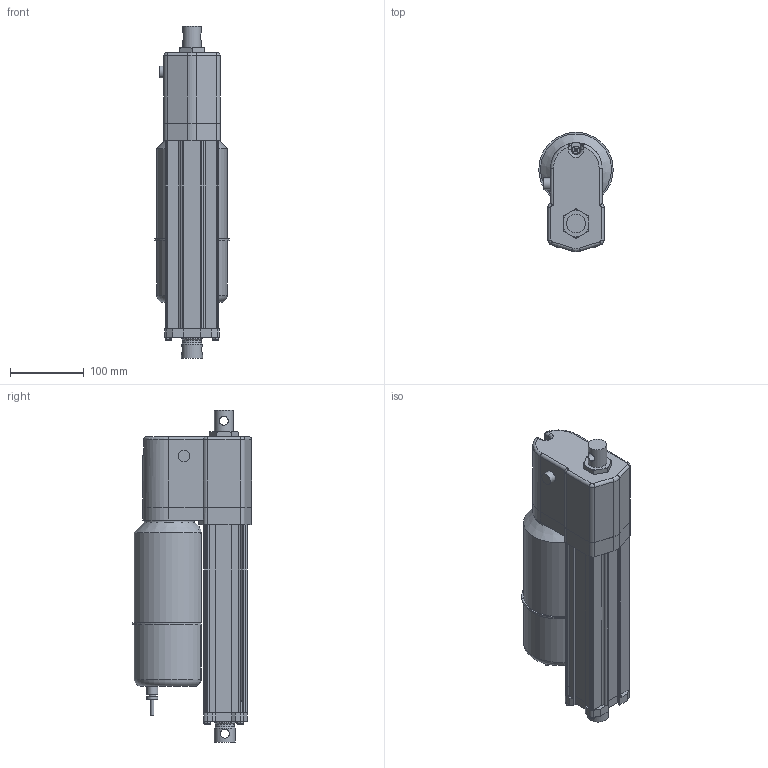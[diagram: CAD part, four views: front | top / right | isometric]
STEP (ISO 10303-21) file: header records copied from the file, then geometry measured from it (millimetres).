
FILE_DESCRIPTION (( 'STEP AP214' ), '1' );
FILE_NAME ('AA22-05B65M-15M0NPO-tollo.step', '2020-04-14T18:49:35', ( '' ), ( '' ), 'SwSTEP 2.0', 'SolidWorks 2010', '' );
FILE_SCHEMA (( 'AUTOMOTIVE_DESIGN' ));
Length unit declared in the file: millimetre
Products named in the file (8): Electrak-LA24-Motor-AA22-05B65M-15M0NPO-tollo_Electrak-LA24-Motor-AA22-05B65M-15M0NPO-tollo; Electrak-LA24-Rear-AA22-05B65M-15M0NPO-tollo_Electrak-LA24-Rear-AA22-05B65M-15M0NPO-tollo; Electrak-LA24-Tube-AA22-05B65M-15M0NPO-tollo_Electrak-LA24-Tube-AA22-05B65M-15M0NPO-tollo; Electrak-LA24-Rod-AA22-05B65M-15M0NPO-tollo_Electrak-LA24-Rod-AA22-05B65M-15M0NPO-tollo; Electrak-LA24-Plate-AA22-05B65M-15M0NPO-tollo_Electrak-LA24-Plate-AA22-05B65M-15M0NPO-tollo; Screw-MFX-H-M5_Screw-MFX-H-M5x24H; Screw-M6S-M5-AA22-05B65M-15M0NPO-tollo_Screw-M6S-M5-AA22-05B65M-15M0NPO-tollo; AA22-05B65M-15M0NPO-tollo
Assembly tree (10 placements, depth 2):
  AA22-05B65M-15M0NPO-tollo
    Electrak-LA24-Rod-AA22-05B65M-15M0NPO-tollo_Electrak-LA24-Rod-AA22-05B65M-15M0NPO-tollo
    Electrak-LA24-Tube-AA22-05B65M-15M0NPO-tollo_Electrak-LA24-Tube-AA22-05B65M-15M0NPO-tollo
    Electrak-LA24-Rear-AA22-05B65M-15M0NPO-tollo_Electrak-LA24-Rear-AA22-05B65M-15M0NPO-tollo
    Screw-M6S-M5-AA22-05B65M-15M0NPO-tollo_Screw-M6S-M5-AA22-05B65M-15M0NPO-tollo  x4
    Electrak-LA24-Motor-AA22-05B65M-15M0NPO-tollo_Electrak-LA24-Motor-AA22-05B65M-15M0NPO-tollo
    Screw-MFX-H-M5_Screw-MFX-H-M5x24H
    Electrak-LA24-Plate-AA22-05B65M-15M0NPO-tollo_Electrak-LA24-Plate-AA22-05B65M-15M0NPO-tollo
Bounding box: 100.99 x 162.5 x 450.7 mm (x, y, z)
Volume: 3129810.8 mm3; surface area: 346324.9 mm2
Topology: 10 solids, 10 shells, 355 faces, 890 edges, 575 vertices
Faces by surface type: plane 175, cylinder 129, cone 31, torus 15, bspline 3, sphere 2
Full cylindrical faces by diameter (mm): 4 x1, 4.126 x5, 4.8 x6, 5 x5, 5.6 x4, 7.878 x4, 9.3 x1, 10 x1, 12.2 x2, 15 x2, 16 x1, 25.4 x1, 28.6 x4, 47.625 x1, 68 x1
Entity records: 9673 total; most frequent: CARTESIAN_POINT 2403, DIRECTION 1454, ORIENTED_EDGE 1342, EDGE_CURVE 671, AXIS2_PLACEMENT_3D 531, VERTEX_POINT 462, LINE 392, VECTOR 392
